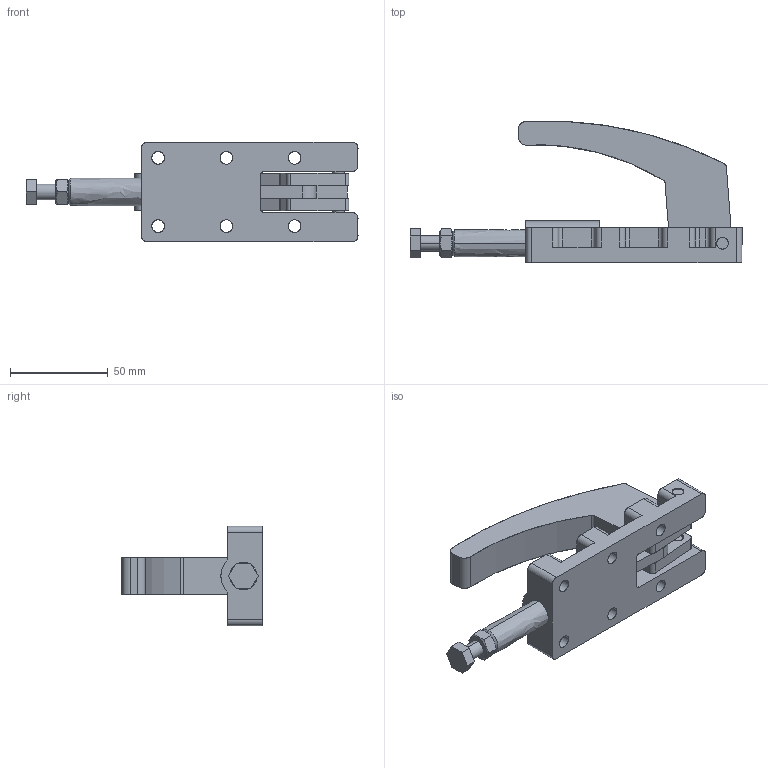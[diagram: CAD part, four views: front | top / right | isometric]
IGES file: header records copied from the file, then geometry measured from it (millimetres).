
Start section: SolidWorks IGES file using analytic representation for surfaces
Global section: file name: C:\Projetos\Grampos\KF-405\KF-405.IGS; native system: SolidWorks 2011; preprocessor: SolidWorks 2011; author: Usuario; date: 110518.154238; units: millimetre
Bounding box: 170.22 x 72.67 x 51 mm (x, y, z)
Surface area: 46320.3 mm2 (no closed solid volume)
Topology: 0 solids, 0 shells, 226 faces, 4003 edges, 3997 vertices
Faces by surface type: revolution 138, bspline 88
